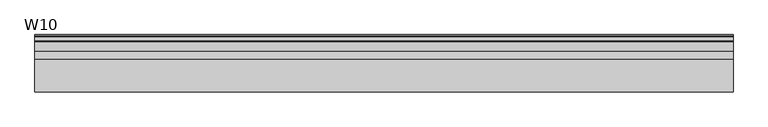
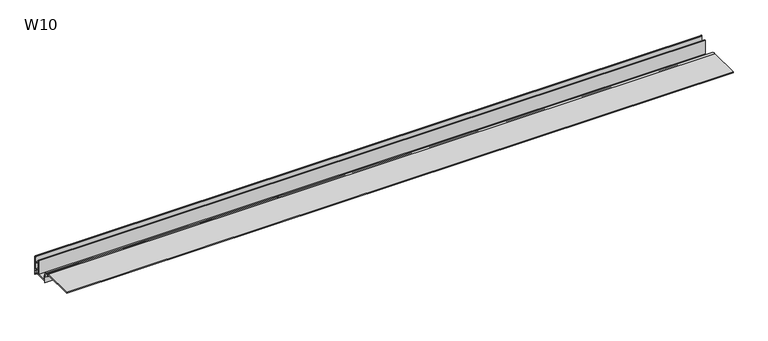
"""IFC4 building model written with IfcOpenShell, lengths in millimetres: proxy geometry, W10 Profil okapowy prosty : W10."""

from ifc_helpers import new_model, si_unit, point, frame, frame_2d, origin, place, context, project, spatial, polyline, circle_curve, trimmed, segment, composite_curve, outline, extrude, source, transform, mapped, element, save


def w10_5e2c0fee(model_context):
    return source(origin(), model_context, "Body", "SweptSolid", [
        extrude(outline(composite_curve([segment(polyline([(44.56, -27.6922578), (43.3599999, -26.4922579), (43.3599999, -21.92), (11.6799998, -21.92), (11.6799998, -25.0468739), (10.4799998, -24.3057388), (10.4799998, -13.6)]), True, "CONTINUOUS"), segment(trimmed(circle_curve(frame_2d((-1.1910212, -13.5968574)), 11.6710215), [point((10.4799998, -13.6))], [point((1.1999998, -2.1733833))], True, "CARTESIAN"), True, "CONTINUOUS"), segment(polyline([(1.1999998, -2.1733833), (1.1999998, -5.76), (0.1599998, -5.76), (0.1599998, -1.92), (-63.8400002, -1.92), (-63.8400002, 0.0), (-1.2000002, 0.0)]), True, "CONTINUOUS"), segment(trimmed(circle_curve(frame_2d((-1.2000002, -13.6)), 13.6), [point((-1.2000002, 0.0))], [point((12.3999998, -13.6))], False, "CARTESIAN"), True, "CONTINUOUS"), segment(polyline([(12.3999998, -13.6), (12.3999998, -20.0), (31.1999998, -20.0), (31.1999998, 8.6705848), (32.3999998, 8.6705848), (32.3999998, -20.0), (43.3599998, -20.0), (43.3599998, -16.8), (40.7999998, -16.8), (40.7999998, -15.6), (43.3599998, -15.6), (43.3599998, -2.62), (40.9599998, -2.62), (40.9599998, -1.26), (43.3599998, -1.26), (43.3599998, 9.4089901)]), True, "CONTINUOUS"), segment(trimmed(circle_curve(frame_2d((42.7199998, 9.4089901)), 0.64), [point((43.3599998, 9.4089901))], [point((42.8536246, 10.034885))], True, "CARTESIAN"), True, "CONTINUOUS"), segment(polyline([(42.8536246, 10.034885), (43.1073683, 11.223413)]), True, "CONTINUOUS"), segment(trimmed(circle_curve(frame_2d((42.7200002, 9.4246509)), 1.8399998), [point((43.1073683, 11.223413))], [point((44.56, 9.4246509))], False, "CARTESIAN"), True, "CONTINUOUS"), segment(polyline([(44.56, 9.4246509), (44.56, -27.6922578)]), True, "CONTINUOUS")], self_intersect=False)), frame((0.0, 0.0, 0.0), z_axis=(1.0, 0.0, 0.0), x_axis=(0.0, 1.0, 0.0)), (0.0, 0.0, 1.0), 1316.651651),
    ])


if __name__ == "__main__":
    model = new_model("IFC4")
    model_context = context("Model", 3, world=origin())
    ifc_project = project(units=[si_unit("LENGTHUNIT", "METRE", prefix="MILLI")], contexts=[model_context])
    site = spatial("IfcSite", under=ifc_project)
    building = spatial("IfcBuilding", under=site)
    placement = place(None, origin())
    w10_shape = w10_5e2c0fee(model_context)
    element("IfcBuildingElementProxy", 1, Name="W10 Profil okapowy prosty : W10", ObjectType="W10 Profil okapowy prosty : W10", at=placement, inside=building, context=model_context, shape_type="MappedRepresentation", body=[
        mapped(w10_shape, transform((0.0, 0.0, 0.0), x_axis=(1.0, 0.0, 0.0), y_axis=(0.0, 1.0, 0.0), z_axis=(0.0, 0.0, 1.0))),
    ])
    save(model, "model.ifc")
